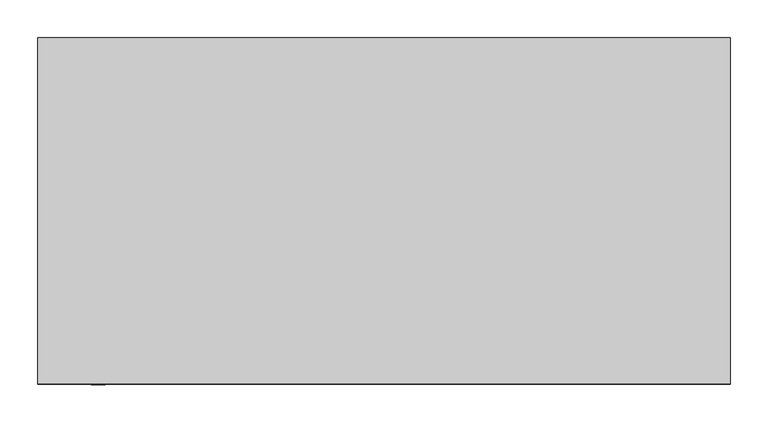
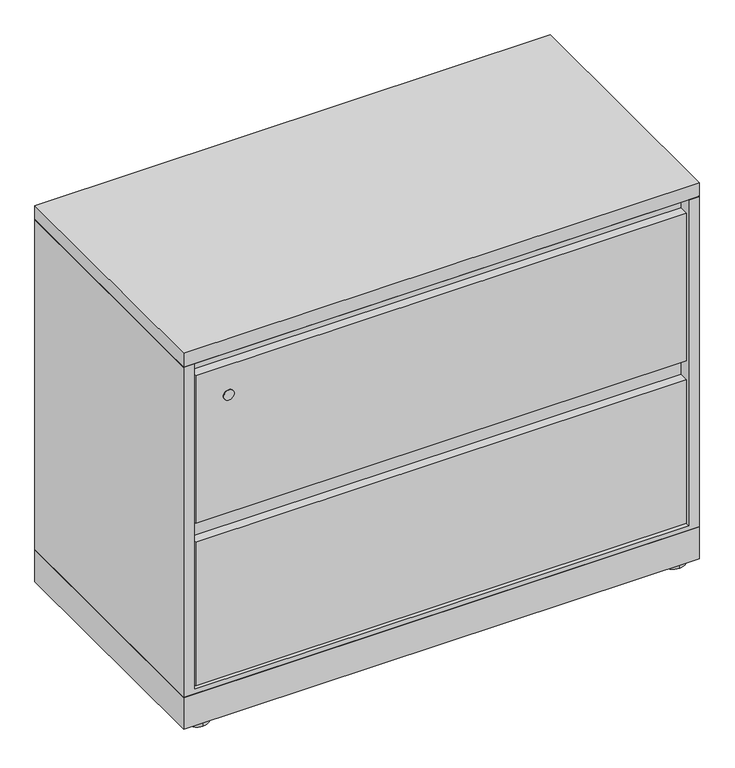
"""IFC4 building model written with IfcOpenShell, lengths in millimetres: furniture geometry, Steelcase - Universal Storage - Lateral File - 2 High - Flush Steel : 18D x 36W."""

import ifcopenshell
import ifcopenshell.guid

model = None  # the IFC model being written
_history = None  # IfcOwnerHistory: only IFC2X3 demands one
_inside = {}  # id of a spatial element -> (the spatial element, [elements in it])
_under = {}  # id of a project, library or spatial element -> (it, [spatial elements below it])
_declared = {}  # id of a project -> (the project, [libraries it declares])
_typed = {}  # id of a type object -> (the type object, [elements of that type])
_made_of = {}  # id of a material, layer set ... -> (it, [elements and type objects made of it])


def new_model(schema):
    """Start an empty IFC model of exactly this schema.

    Asked for "IFC4X3", IfcOpenShell would pick the latest addendum, in which some entities
    have other attributes; the version numbers below select the first issue.
    IFC2X3 requires an IfcOwnerHistory on every rooted entity: one is made here for all.
    """
    global model, _history
    if schema == "IFC4X3":
        model = ifcopenshell.file(schema_version=(4, 3, 0, 0))
    else:
        model = ifcopenshell.file(schema=schema)
    _inside.clear()
    _under.clear()
    _declared.clear()
    _typed.clear()
    _made_of.clear()
    _history = None
    if model.schema == "IFC2X3":
        org = make("IfcOrganization", Name="unknown")
        user = make(
            "IfcPersonAndOrganization",
            ThePerson=make("IfcPerson", FamilyName="unknown"),
            TheOrganization=org,
        )
        app = make(
            "IfcApplication",
            ApplicationDeveloper=org,
            Version="unknown",
            ApplicationFullName="unknown",
            ApplicationIdentifier="unknown",
        )
        _history = make(
            "IfcOwnerHistory",
            OwningUser=user,
            OwningApplication=app,
            ChangeAction="ADDED",
            CreationDate=0,
        )
    return model


def make(cls, **values):
    """One entity of the class cls with the attributes given. An attribute that is None is left unset."""
    return model.create_entity(
        cls, **{name: value for name, value in values.items() if value is not None}
    )


def rooted(cls, **values):
    """An entity with a GlobalId (a new one), such as an element, a storey or a relation."""
    return make(cls, GlobalId=ifcopenshell.guid.new(), OwnerHistory=_history, **values)


def si_unit(unit_type, name, prefix=None):
    """IfcSIUnit, for example si_unit("LENGTHUNIT", "METRE", prefix="MILLI")."""
    return make("IfcSIUnit", UnitType=unit_type, Prefix=prefix, Name=name)


def assignment(units):
    """IfcUnitAssignment: the units of a project."""
    return None if units is None else make("IfcUnitAssignment", Units=units)


def point(xyz):
    """IfcCartesianPoint."""
    return None if xyz is None else make("IfcCartesianPoint", Coordinates=xyz)


def direction(xyz):
    """IfcDirection."""
    return None if xyz is None else make("IfcDirection", DirectionRatios=xyz)


def frame(location, z_axis=None, x_axis=None):
    """IfcAxis2Placement3D, a coordinate frame: its origin and axes. An axis left out is left unset."""
    return make(
        "IfcAxis2Placement3D",
        Location=point(location),
        Axis=direction(z_axis),
        RefDirection=direction(x_axis),
    )


def frame_2d(location, x_axis=None):
    """IfcAxis2Placement2D, a coordinate frame in the plane: its origin and x axis."""
    return make(
        "IfcAxis2Placement2D", Location=point(location), RefDirection=direction(x_axis)
    )


def origin():
    """The frame at (0, 0, 0) with its axes left unset."""
    return frame((0.0, 0.0, 0.0))


def origin_with_axes():
    """The frame at (0, 0, 0) with the z axis (0, 0, 1) and the x axis (1, 0, 0) written out."""
    return frame((0.0, 0.0, 0.0), z_axis=(0.0, 0.0, 1.0), x_axis=(1.0, 0.0, 0.0))


def place(relative_to, where):
    """IfcLocalPlacement: puts the frame where relative to a parent placement (None: the world)."""
    return make(
        "IfcLocalPlacement", PlacementRelTo=relative_to, RelativePlacement=where
    )


def context(
    kind, dimensions, precision=None, world=None, true_north=None, identifier=None
):
    """IfcGeometricRepresentationContext, for example the 3D "Model" context."""
    return make(
        "IfcGeometricRepresentationContext",
        ContextIdentifier=identifier,
        ContextType=kind,
        CoordinateSpaceDimension=dimensions,
        Precision=precision,
        WorldCoordinateSystem=world,
        TrueNorth=true_north,
    )


def project(units=None, contexts=None):
    """IfcProject with its units and contexts."""
    return rooted(
        "IfcProject",
        Name="project",
        RepresentationContexts=contexts,
        UnitsInContext=assignment(units),
    )


def spatial(cls, under=None, at=None, **own):
    """A site, building, storey or space (cls), placed at a placement, below another one or the project."""
    s = rooted(cls, ObjectPlacement=at, **own)
    if under is not None:
        _under.setdefault(under.id(), (under, []))[1].append(s)
    return s


def polyline(points):
    """IfcPolyline through the points."""
    return make("IfcPolyline", Points=[point(p) for p in points])


def circle_curve(where, radius):
    """IfcCircle in the frame where."""
    return make("IfcCircle", Position=where, Radius=radius)


def trimmed(basis, trim1, trim2, sense, master):
    """IfcTrimmedCurve: the piece of a basis curve between two trims."""
    return make(
        "IfcTrimmedCurve",
        BasisCurve=basis,
        Trim1=trim1,
        Trim2=trim2,
        SenseAgreement=sense,
        MasterRepresentation=master,
    )


def segment(curve, same_sense, transition):
    """IfcCompositeCurveSegment."""
    return make(
        "IfcCompositeCurveSegment",
        Transition=transition,
        SameSense=same_sense,
        ParentCurve=curve,
    )


def composite_curve(segments, self_intersect=None):
    """IfcCompositeCurve: segments joined end to end."""
    return make("IfcCompositeCurve", Segments=segments, SelfIntersect=self_intersect)


def outline(outer, holes=None, kind="AREA"):
    """IfcArbitraryClosedProfileDef: a profile drawn as a closed curve; with holes, ...WithVoids."""
    if holes is None:
        return make("IfcArbitraryClosedProfileDef", ProfileType=kind, OuterCurve=outer)
    return make(
        "IfcArbitraryProfileDefWithVoids",
        ProfileType=kind,
        OuterCurve=outer,
        InnerCurves=holes,
    )


def extrude(swept, where, along, depth):
    """IfcExtrudedAreaSolid: the profile swept, set in the frame where, extruded along a direction by depth."""
    return make(
        "IfcExtrudedAreaSolid",
        SweptArea=swept,
        Position=where,
        ExtrudedDirection=direction(along),
        Depth=depth,
    )


def faces_of(points, faces, orient=None, outer=None):
    """IfcFace entities. A face is a list of loops; a loop is a list of indices into points, from 0.

    orient and outer hold one flag for each loop. By default every Orientation is true, the
    first loop of a face is its IfcFaceOuterBound and the others are IfcFaceBound.
    """
    made = []
    for i, loops in enumerate(faces):
        bounds = []
        for j, loop in enumerate(loops):
            is_outer = j == 0 if outer is None else outer[i][j]
            bounds.append(
                make(
                    "IfcFaceOuterBound" if is_outer else "IfcFaceBound",
                    Bound=make("IfcPolyLoop", Polygon=[points[k] for k in loop]),
                    Orientation=True if orient is None else orient[i][j],
                )
            )
        made.append(make("IfcFace", Bounds=bounds))
    return made


def faceted_brep(points, faces, orient=None, outer=None, voids=None):
    """IfcFacetedBrep: a solid bounded by flat faces; with voids (closed shells), ...WithVoids."""
    shared = [point(p) for p in points]
    hull = make("IfcClosedShell", CfsFaces=faces_of(shared, faces, orient, outer))
    if voids is None:
        return make("IfcFacetedBrep", Outer=hull)
    return make(
        "IfcFacetedBrepWithVoids",
        Outer=hull,
        Voids=[
            make(cls, CfsFaces=faces_of(shared, fs, o, b)) for cls, fs, o, b in voids
        ],
    )


def shape(context_of_items, identifier, shape_type, items):
    """IfcShapeRepresentation: the items that make up one representation, for example the "Body"."""
    return make(
        "IfcShapeRepresentation",
        ContextOfItems=context_of_items,
        RepresentationIdentifier=identifier,
        RepresentationType=shape_type,
        Items=items,
    )


def source(mapping_origin, context_of_items, identifier, shape_type, items):
    """IfcRepresentationMap: a shape defined once, which mapped items show again and again."""
    return make(
        "IfcRepresentationMap",
        MappingOrigin=mapping_origin,
        MappedRepresentation=shape(context_of_items, identifier, shape_type, items),
    )


def transform(
    local_origin,
    x_axis=None,
    y_axis=None,
    z_axis=None,
    scale=None,
    scale2=None,
    scale3=None,
    uniform=True,
):
    """IfcCartesianTransformationOperator3D, or its non-uniform kind. x_axis, y_axis, z_axis: its Axis1, 2, 3."""
    if uniform:
        return make(
            "IfcCartesianTransformationOperator3D",
            Axis1=direction(x_axis),
            Axis2=direction(y_axis),
            LocalOrigin=point(local_origin),
            Scale=scale,
            Axis3=direction(z_axis),
        )
    return make(
        "IfcCartesianTransformationOperator3DnonUniform",
        Axis1=direction(x_axis),
        Axis2=direction(y_axis),
        LocalOrigin=point(local_origin),
        Scale=scale,
        Axis3=direction(z_axis),
        Scale2=scale2,
        Scale3=scale3,
    )


def mapped(mapping_source, mapping_target):
    """IfcMappedItem: shows the shape of a source again, moved by a transform."""
    return make(
        "IfcMappedItem", MappingSource=mapping_source, MappingTarget=mapping_target
    )


def made_of(thing, what):
    """Note that an element or type object is made of a material, layer set ...; save() writes the relation."""
    if what is not None:
        _made_of.setdefault(what.id(), (what, []))[1].append(thing)
    return thing


def element(
    cls,
    number,
    at=None,
    inside=None,
    cuts=None,
    type_object=None,
    material=None,
    context=None,
    identifier="Body",
    shape_type=None,
    held_by="IfcProductDefinitionShape",
    body=None,
    shapes=None,
    **own,
):
    """One element of the class cls, such as IfcWall. Its Tag is "e" and its number.

    at: its placement. inside: the storey or other place that contains it. cuts: it is an
    opening in that element (IfcRelVoidsElement). A single representation is given by context,
    identifier, shape_type and body (its items); several are given by shapes. held_by: the class
    of the entity that holds the representations. save() writes the other relations.
    """
    e = rooted(cls, Tag="e%d" % number, ObjectPlacement=at, **own)
    if body is not None:
        shapes = [shape(context, identifier, shape_type, body)]
    if shapes is not None:
        e.Representation = make(held_by, Representations=shapes)
    if inside is not None:
        _inside.setdefault(inside.id(), (inside, []))[1].append(e)
    if cuts is not None:
        rooted(
            "IfcRelVoidsElement", RelatingBuildingElement=cuts, RelatedOpeningElement=e
        )
    if type_object is not None:
        _typed.setdefault(type_object.id(), (type_object, []))[1].append(e)
    return made_of(e, material)


def aggregate(whole, parts):
    """IfcRelAggregates: a whole, such as a stair, and the parts it consists of."""
    return rooted("IfcRelAggregates", RelatingObject=whole, RelatedObjects=parts)


def save(model, path):
    """Write the relations noted so far, then the file.

    IfcRelAggregates (storeys below a building ...), IfcRelContainedInSpatialStructure (elements
    in a storey), IfcRelDefinesByType, IfcRelAssociatesMaterial and IfcRelDeclares: one each for
    every whole, place, type object, material and project.
    """
    for whole, parts in _under.values():
        aggregate(whole, parts)
    for where, things in _inside.values():
        rooted(
            "IfcRelContainedInSpatialStructure",
            RelatedElements=things,
            RelatingStructure=where,
        )
    for kind, things in _typed.values():
        rooted("IfcRelDefinesByType", RelatedObjects=things, RelatingType=kind)
    for what, things in _made_of.values():
        rooted("IfcRelAssociatesMaterial", RelatedObjects=things, RelatingMaterial=what)
    for by, libraries in _declared.values():
        rooted("IfcRelDeclares", RelatingContext=by, RelatedDefinitions=libraries)
    model.write(path)


def furniture_d32590b2(model_context):
    return source(origin(), model_context, "Body", "SolidModel", [
        extrude(outline(polyline([(914.4, 457.2), (914.4, 0.0), (0.0, 0.0), (0.0, 457.2), (914.4, 457.2)])), frame((0.0, 0.0, 685.7999516), z_axis=(0.0, 0.0, 1.0), x_axis=(1.0, 0.0, 0.0)), (0.0, 0.0, 1.0), 25.4),
        extrude(outline(polyline([(914.4, 457.2), (914.4, 0.0), (0.0, 0.0), (0.0, 457.2), (914.4, 457.2)])), frame((0.0, 0.0, 6.3500002), z_axis=(0.0, 0.0, 1.0), x_axis=(1.0, 0.0, 0.0)), (0.0, 0.0, 1.0), 59.6899998),
        extrude(outline(composite_curve([segment(trimmed(circle_curve(frame_2d((879.7290058, 434.8633666)), 20.32), [point((879.7290058, 414.5433666))], [point((879.7290058, 455.1833666))], False, "CARTESIAN"), True, "CONTINUOUS"), segment(trimmed(circle_curve(frame_2d((879.7290058, 434.8633666)), 20.32), [point((879.7290058, 455.1833666))], [point((879.7290058, 414.5433666))], False, "CARTESIAN"), True, "CONTINUOUS")], self_intersect=False)), origin_with_axes(), (0.0, 0.0, 1.0), 6.3500002),
        extrude(outline(composite_curve([segment(trimmed(circle_curve(frame_2d((879.7290058, 20.7491455)), 20.32), [point((879.7290058, 0.4291455))], [point((879.7290058, 41.0691455))], False, "CARTESIAN"), True, "CONTINUOUS"), segment(trimmed(circle_curve(frame_2d((879.7290058, 20.7491455)), 20.32), [point((879.7290058, 41.0691455))], [point((879.7290058, 0.4291455))], False, "CARTESIAN"), True, "CONTINUOUS")], self_intersect=False)), origin_with_axes(), (0.0, 0.0, 1.0), 6.3500002),
        extrude(outline(composite_curve([segment(trimmed(circle_curve(frame_2d((34.29, 434.8633666)), 20.32), [point((34.29, 455.1833666))], [point((34.29, 414.5433666))], False, "CARTESIAN"), True, "CONTINUOUS"), segment(trimmed(circle_curve(frame_2d((34.29, 434.8633666)), 20.32), [point((34.29, 414.5433666))], [point((34.29, 455.1833666))], False, "CARTESIAN"), True, "CONTINUOUS")], self_intersect=False)), origin_with_axes(), (0.0, 0.0, 1.0), 6.3500002),
        extrude(outline(composite_curve([segment(trimmed(circle_curve(frame_2d((34.29, 20.7491455)), 20.32), [point((34.29, 41.0691455))], [point((34.29, 0.4291455))], False, "CARTESIAN"), True, "CONTINUOUS"), segment(trimmed(circle_curve(frame_2d((34.29, 20.7491455)), 20.32), [point((34.29, 0.4291455))], [point((34.29, 41.0691455))], False, "CARTESIAN"), True, "CONTINUOUS")], self_intersect=False)), origin_with_axes(), (0.0, 0.0, 1.0), 6.3500002),
        extrude(outline(polyline([(437.7944128, 396.7988176), (437.7944128, 410.7687861), (440.969412, 410.7687861), (440.969412, 371.5257963), (26.822418, 371.5257963), (26.822418, 396.7988176), (437.7944128, 396.7988176)])), frame((22.0472, 0.0, 0.0), z_axis=(1.0, 0.0, 0.0), x_axis=(0.0, 1.0, 0.0)), (0.0, 0.0, 1.0), 870.3056),
        extrude(outline(polyline([(1.45e-05, 685.7999516), (457.2, 685.7999516), (456.4379879, 685.0379394), (0.7620266, 685.0379394), (1.45e-05, 685.7999516)])), frame((0.0, 0.0, 0.0), z_axis=(1.0, 0.0, 0.0), x_axis=(0.0, 1.0, 0.0)), (0.0, 0.0, 1.0), 914.4),
        faceted_brep([(914.4, 0.0, 66.04), (914.4, 457.2, 66.04), (914.4, 457.2, 685.0379394), (914.4, 0.0, 685.0379394), (0.0, 0.0, 685.0379394), (0.0, 457.2, 685.0379394), (0.0, 457.2, 66.04), (0.0, 0.0, 66.04), (895.35, 0.0, 685.0379394), (895.35, 0.0, 75.1586), (19.05, 0.0, 75.1586), (19.05, 0.0, 685.0379394), (19.05, 454.0249999, 685.0379394), (895.35, 454.0249999, 685.0379394), (19.05, 454.0249999, 75.1586), (895.35, 454.0249999, 75.1586)], [[[0, 1, 2, 3]], [[4, 5, 6, 7]], [[0, 3, 8, 9, 10, 11, 4, 7]], [[2, 1, 6, 5]], [[3, 2, 5, 4, 11, 12, 13, 8]], [[12, 14, 15, 13]], [[14, 12, 11, 10]], [[13, 15, 9, 8]], [[1, 0, 7, 6]], [[10, 9, 15, 14]]]),
        extrude(outline(polyline([(23.6541043, 79.2988025), (1.5178885, 79.2988025), (1.5178885, 348.1577823), (19.3741023, 348.1577823), (19.3741023, 378.7648167), (23.6541043, 378.7648167), (23.6541043, 79.2988025)])), frame((22.0472, 0.0, 0.0), z_axis=(1.0, 0.0, 0.0), x_axis=(0.0, 1.0, 0.0)), (0.0, 0.0, 1.0), 870.3056),
        extrude(outline(polyline([(23.6541043, 384.1241916), (1.5178885, 384.1241916), (1.5178885, 660.4), (19.3741023, 660.4), (19.3741023, 684.2759167), (23.6541043, 684.2759167), (23.6541043, 384.1241916)])), frame((22.0472, 0.0, 0.0), z_axis=(1.0, 0.0, 0.0), x_axis=(0.0, 1.0, 0.0)), (0.0, 0.0, 1.0), 870.3056),
        extrude(outline(composite_curve([segment(trimmed(circle_curve(frame_2d((606.1930374, 79.5245518)), 9.2851891), [point((606.1930374, 70.2393627))], [point((606.1930374, 88.8097409))], False, "CARTESIAN"), True, "CONTINUOUS"), segment(trimmed(circle_curve(frame_2d((606.1930374, 79.5245518)), 9.2851891), [point((606.1930374, 88.8097409))], [point((606.1930374, 70.2393627))], False, "CARTESIAN"), True, "CONTINUOUS")], self_intersect=False)), frame((0.0, -1.044398, 0.0), z_axis=(0.0, 1.0, 0.0), x_axis=(0.0, 0.0, 1.0)), (0.0, 0.0, 1.0), 1.044398),
    ])


if __name__ == "__main__":
    model = new_model("IFC4")
    model_context = context("Model", 3, world=origin())
    ifc_project = project(units=[si_unit("LENGTHUNIT", "METRE", prefix="MILLI")], contexts=[model_context])
    site = spatial("IfcSite", under=ifc_project)
    building = spatial("IfcBuilding", under=site)
    placement = place(None, origin())
    furniture_shape = furniture_d32590b2(model_context)
    element("IfcFurniture", 1, ObjectType="Steelcase - Universal Storage - Lateral File - 2 High - Flush Steel : 18D x 36W", at=placement, inside=building, context=model_context, shape_type="MappedRepresentation", body=[
        mapped(furniture_shape, transform((0.0, 0.0, 0.0), x_axis=(1.0, 0.0, 0.0), y_axis=(0.0, 1.0, 0.0), z_axis=(0.0, 0.0, 1.0))),
    ])
    save(model, "model.ifc")
